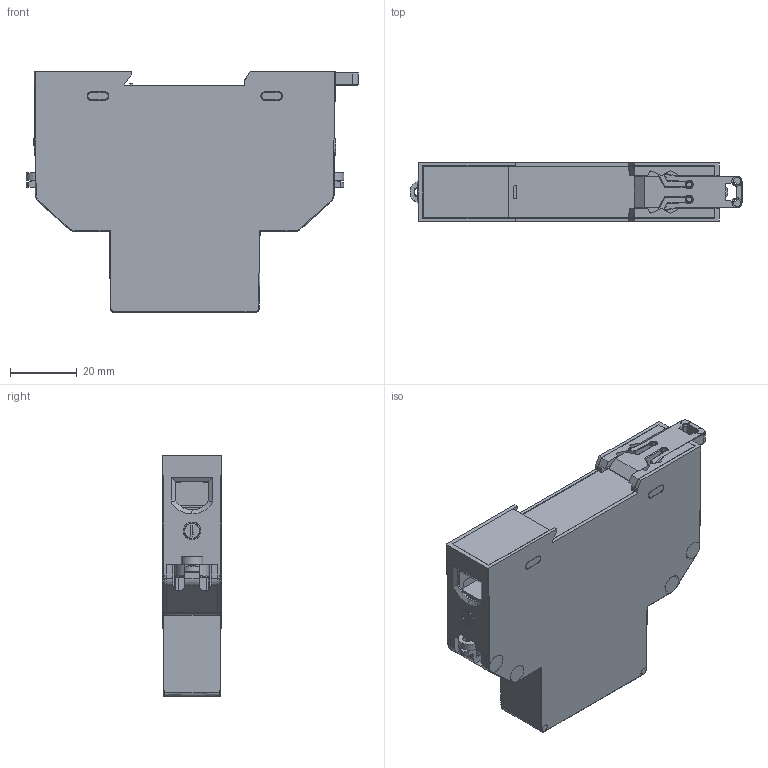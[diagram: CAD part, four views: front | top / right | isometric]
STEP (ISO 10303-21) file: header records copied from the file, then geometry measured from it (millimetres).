
FILE_DESCRIPTION((''),'2;1');
FILE_NAME('K109-75005K109-86006_ASM_8_ASM__ASM','2024-08-13T',('ZZW'),(''),'CREO PARAMETRIC BY PTC INC, 2015080','CREO PARAMETRIC BY PTC INC, 2015080','');
FILE_SCHEMA(('CONFIG_CONTROL_DESIGN','GEOMETRIC_VALIDATION_PROPERTIES_MIM'));
Products named in the file (6): PRT001-201296-DOWN_99_1; W015-XCX-2_9_1; PRT001-201296-UP-BEHIND_42_1; YTL-1901011_6_1; 901011-1_2_1; K109-75005K109-86006_ASM_8_ASM__ASM
Assembly tree (8 placements, depth 2):
  K109-75005K109-86006_ASM_8_ASM__ASM
    PRT001-201296-DOWN_99_1
    W015-XCX-2_9_1
    PRT001-201296-UP-BEHIND_42_1  x2
    YTL-1901011_6_1  x2
    901011-1_2_1  x2
Bounding box: 99.3 x 17.8 x 72 mm (x, y, z)
Surface area: 36730.2 mm2 (no closed solid volume)
Topology: 0 solids, 0 shells, 1227 faces, 6904 edges, 6860 vertices
Faces by surface type: bspline 1185, torus 38, sphere 4
Entity records: 92961 total; most frequent: CARTESIAN_POINT 38376, DIRECTION 7899, TRIMMED_CURVE 7319, VECTOR 6841, LINE 6841, DEFINITIONAL_REPRESENTATION 5564, PCURVE 5564, COMPOSITE_CURVE_SEGMENT 5564
